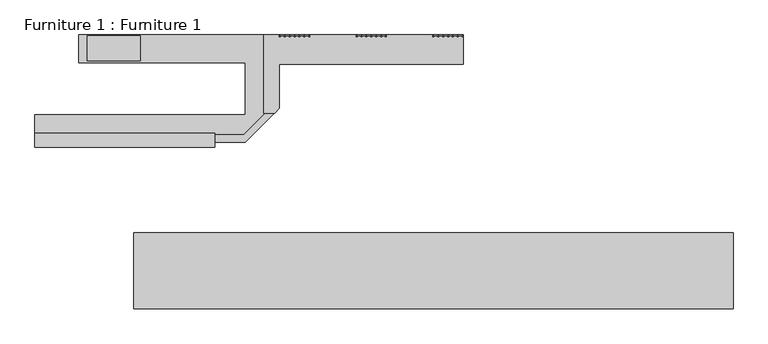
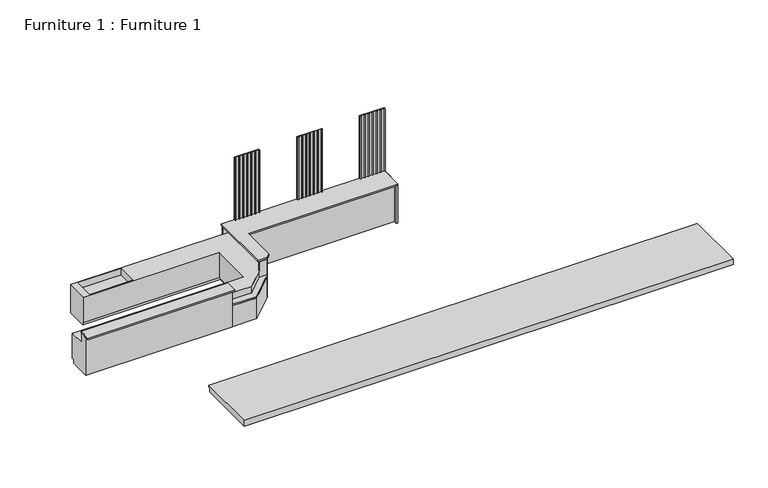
"""IFC4 building model written with IfcOpenShell, lengths in millimetres: furniture geometry, Furniture 1 : Furniture 1."""

import ifcopenshell
import ifcopenshell.guid

model = None  # the IFC model being written
_history = None  # IfcOwnerHistory: only IFC2X3 demands one
_inside = {}  # id of a spatial element -> (the spatial element, [elements in it])
_under = {}  # id of a project, library or spatial element -> (it, [spatial elements below it])
_declared = {}  # id of a project -> (the project, [libraries it declares])
_typed = {}  # id of a type object -> (the type object, [elements of that type])
_made_of = {}  # id of a material, layer set ... -> (it, [elements and type objects made of it])


def new_model(schema):
    """Start an empty IFC model of exactly this schema.

    Asked for "IFC4X3", IfcOpenShell would pick the latest addendum, in which some entities
    have other attributes; the version numbers below select the first issue.
    IFC2X3 requires an IfcOwnerHistory on every rooted entity: one is made here for all.
    """
    global model, _history
    if schema == "IFC4X3":
        model = ifcopenshell.file(schema_version=(4, 3, 0, 0))
    else:
        model = ifcopenshell.file(schema=schema)
    _inside.clear()
    _under.clear()
    _declared.clear()
    _typed.clear()
    _made_of.clear()
    _history = None
    if model.schema == "IFC2X3":
        org = make("IfcOrganization", Name="unknown")
        user = make(
            "IfcPersonAndOrganization",
            ThePerson=make("IfcPerson", FamilyName="unknown"),
            TheOrganization=org,
        )
        app = make(
            "IfcApplication",
            ApplicationDeveloper=org,
            Version="unknown",
            ApplicationFullName="unknown",
            ApplicationIdentifier="unknown",
        )
        _history = make(
            "IfcOwnerHistory",
            OwningUser=user,
            OwningApplication=app,
            ChangeAction="ADDED",
            CreationDate=0,
        )
    return model


def make(cls, **values):
    """One entity of the class cls with the attributes given. An attribute that is None is left unset."""
    return model.create_entity(
        cls, **{name: value for name, value in values.items() if value is not None}
    )


def rooted(cls, **values):
    """An entity with a GlobalId (a new one), such as an element, a storey or a relation."""
    return make(cls, GlobalId=ifcopenshell.guid.new(), OwnerHistory=_history, **values)


def si_unit(unit_type, name, prefix=None):
    """IfcSIUnit, for example si_unit("LENGTHUNIT", "METRE", prefix="MILLI")."""
    return make("IfcSIUnit", UnitType=unit_type, Prefix=prefix, Name=name)


def assignment(units):
    """IfcUnitAssignment: the units of a project."""
    return None if units is None else make("IfcUnitAssignment", Units=units)


def point(xyz):
    """IfcCartesianPoint."""
    return None if xyz is None else make("IfcCartesianPoint", Coordinates=xyz)


def direction(xyz):
    """IfcDirection."""
    return None if xyz is None else make("IfcDirection", DirectionRatios=xyz)


def frame(location, z_axis=None, x_axis=None):
    """IfcAxis2Placement3D, a coordinate frame: its origin and axes. An axis left out is left unset."""
    return make(
        "IfcAxis2Placement3D",
        Location=point(location),
        Axis=direction(z_axis),
        RefDirection=direction(x_axis),
    )


def frame_2d(location, x_axis=None):
    """IfcAxis2Placement2D, a coordinate frame in the plane: its origin and x axis."""
    return make(
        "IfcAxis2Placement2D", Location=point(location), RefDirection=direction(x_axis)
    )


def origin():
    """The frame at (0, 0, 0) with its axes left unset."""
    return frame((0.0, 0.0, 0.0))


def origin_with_axes():
    """The frame at (0, 0, 0) with the z axis (0, 0, 1) and the x axis (1, 0, 0) written out."""
    return frame((0.0, 0.0, 0.0), z_axis=(0.0, 0.0, 1.0), x_axis=(1.0, 0.0, 0.0))


def place(relative_to, where):
    """IfcLocalPlacement: puts the frame where relative to a parent placement (None: the world)."""
    return make(
        "IfcLocalPlacement", PlacementRelTo=relative_to, RelativePlacement=where
    )


def context(
    kind, dimensions, precision=None, world=None, true_north=None, identifier=None
):
    """IfcGeometricRepresentationContext, for example the 3D "Model" context."""
    return make(
        "IfcGeometricRepresentationContext",
        ContextIdentifier=identifier,
        ContextType=kind,
        CoordinateSpaceDimension=dimensions,
        Precision=precision,
        WorldCoordinateSystem=world,
        TrueNorth=true_north,
    )


def project(units=None, contexts=None):
    """IfcProject with its units and contexts."""
    return rooted(
        "IfcProject",
        Name="project",
        RepresentationContexts=contexts,
        UnitsInContext=assignment(units),
    )


def spatial(cls, under=None, at=None, **own):
    """A site, building, storey or space (cls), placed at a placement, below another one or the project."""
    s = rooted(cls, ObjectPlacement=at, **own)
    if under is not None:
        _under.setdefault(under.id(), (under, []))[1].append(s)
    return s


def polyline(points):
    """IfcPolyline through the points."""
    return make("IfcPolyline", Points=[point(p) for p in points])


def circle_curve(where, radius):
    """IfcCircle in the frame where."""
    return make("IfcCircle", Position=where, Radius=radius)


def trimmed(basis, trim1, trim2, sense, master):
    """IfcTrimmedCurve: the piece of a basis curve between two trims."""
    return make(
        "IfcTrimmedCurve",
        BasisCurve=basis,
        Trim1=trim1,
        Trim2=trim2,
        SenseAgreement=sense,
        MasterRepresentation=master,
    )


def segment(curve, same_sense, transition):
    """IfcCompositeCurveSegment."""
    return make(
        "IfcCompositeCurveSegment",
        Transition=transition,
        SameSense=same_sense,
        ParentCurve=curve,
    )


def composite_curve(segments, self_intersect=None):
    """IfcCompositeCurve: segments joined end to end."""
    return make("IfcCompositeCurve", Segments=segments, SelfIntersect=self_intersect)


def outline(outer, holes=None, kind="AREA"):
    """IfcArbitraryClosedProfileDef: a profile drawn as a closed curve; with holes, ...WithVoids."""
    if holes is None:
        return make("IfcArbitraryClosedProfileDef", ProfileType=kind, OuterCurve=outer)
    return make(
        "IfcArbitraryProfileDefWithVoids",
        ProfileType=kind,
        OuterCurve=outer,
        InnerCurves=holes,
    )


def extrude(swept, where, along, depth):
    """IfcExtrudedAreaSolid: the profile swept, set in the frame where, extruded along a direction by depth."""
    return make(
        "IfcExtrudedAreaSolid",
        SweptArea=swept,
        Position=where,
        ExtrudedDirection=direction(along),
        Depth=depth,
    )


def faces_of(points, faces, orient=None, outer=None):
    """IfcFace entities. A face is a list of loops; a loop is a list of indices into points, from 0.

    orient and outer hold one flag for each loop. By default every Orientation is true, the
    first loop of a face is its IfcFaceOuterBound and the others are IfcFaceBound.
    """
    made = []
    for i, loops in enumerate(faces):
        bounds = []
        for j, loop in enumerate(loops):
            is_outer = j == 0 if outer is None else outer[i][j]
            bounds.append(
                make(
                    "IfcFaceOuterBound" if is_outer else "IfcFaceBound",
                    Bound=make("IfcPolyLoop", Polygon=[points[k] for k in loop]),
                    Orientation=True if orient is None else orient[i][j],
                )
            )
        made.append(make("IfcFace", Bounds=bounds))
    return made


def faceted_brep(points, faces, orient=None, outer=None, voids=None):
    """IfcFacetedBrep: a solid bounded by flat faces; with voids (closed shells), ...WithVoids."""
    shared = [point(p) for p in points]
    hull = make("IfcClosedShell", CfsFaces=faces_of(shared, faces, orient, outer))
    if voids is None:
        return make("IfcFacetedBrep", Outer=hull)
    return make(
        "IfcFacetedBrepWithVoids",
        Outer=hull,
        Voids=[
            make(cls, CfsFaces=faces_of(shared, fs, o, b)) for cls, fs, o, b in voids
        ],
    )


def shape(context_of_items, identifier, shape_type, items):
    """IfcShapeRepresentation: the items that make up one representation, for example the "Body"."""
    return make(
        "IfcShapeRepresentation",
        ContextOfItems=context_of_items,
        RepresentationIdentifier=identifier,
        RepresentationType=shape_type,
        Items=items,
    )


def source(mapping_origin, context_of_items, identifier, shape_type, items):
    """IfcRepresentationMap: a shape defined once, which mapped items show again and again."""
    return make(
        "IfcRepresentationMap",
        MappingOrigin=mapping_origin,
        MappedRepresentation=shape(context_of_items, identifier, shape_type, items),
    )


def transform(
    local_origin,
    x_axis=None,
    y_axis=None,
    z_axis=None,
    scale=None,
    scale2=None,
    scale3=None,
    uniform=True,
):
    """IfcCartesianTransformationOperator3D, or its non-uniform kind. x_axis, y_axis, z_axis: its Axis1, 2, 3."""
    if uniform:
        return make(
            "IfcCartesianTransformationOperator3D",
            Axis1=direction(x_axis),
            Axis2=direction(y_axis),
            LocalOrigin=point(local_origin),
            Scale=scale,
            Axis3=direction(z_axis),
        )
    return make(
        "IfcCartesianTransformationOperator3DnonUniform",
        Axis1=direction(x_axis),
        Axis2=direction(y_axis),
        LocalOrigin=point(local_origin),
        Scale=scale,
        Axis3=direction(z_axis),
        Scale2=scale2,
        Scale3=scale3,
    )


def mapped(mapping_source, mapping_target):
    """IfcMappedItem: shows the shape of a source again, moved by a transform."""
    return make(
        "IfcMappedItem", MappingSource=mapping_source, MappingTarget=mapping_target
    )


def made_of(thing, what):
    """Note that an element or type object is made of a material, layer set ...; save() writes the relation."""
    if what is not None:
        _made_of.setdefault(what.id(), (what, []))[1].append(thing)
    return thing


def element(
    cls,
    number,
    at=None,
    inside=None,
    cuts=None,
    type_object=None,
    material=None,
    context=None,
    identifier="Body",
    shape_type=None,
    held_by="IfcProductDefinitionShape",
    body=None,
    shapes=None,
    **own,
):
    """One element of the class cls, such as IfcWall. Its Tag is "e" and its number.

    at: its placement. inside: the storey or other place that contains it. cuts: it is an
    opening in that element (IfcRelVoidsElement). A single representation is given by context,
    identifier, shape_type and body (its items); several are given by shapes. held_by: the class
    of the entity that holds the representations. save() writes the other relations.
    """
    e = rooted(cls, Tag="e%d" % number, ObjectPlacement=at, **own)
    if body is not None:
        shapes = [shape(context, identifier, shape_type, body)]
    if shapes is not None:
        e.Representation = make(held_by, Representations=shapes)
    if inside is not None:
        _inside.setdefault(inside.id(), (inside, []))[1].append(e)
    if cuts is not None:
        rooted(
            "IfcRelVoidsElement", RelatingBuildingElement=cuts, RelatedOpeningElement=e
        )
    if type_object is not None:
        _typed.setdefault(type_object.id(), (type_object, []))[1].append(e)
    return made_of(e, material)


def aggregate(whole, parts):
    """IfcRelAggregates: a whole, such as a stair, and the parts it consists of."""
    return rooted("IfcRelAggregates", RelatingObject=whole, RelatedObjects=parts)


def save(model, path):
    """Write the relations noted so far, then the file.

    IfcRelAggregates (storeys below a building ...), IfcRelContainedInSpatialStructure (elements
    in a storey), IfcRelDefinesByType, IfcRelAssociatesMaterial and IfcRelDeclares: one each for
    every whole, place, type object, material and project.
    """
    for whole, parts in _under.values():
        aggregate(whole, parts)
    for where, things in _inside.values():
        rooted(
            "IfcRelContainedInSpatialStructure",
            RelatedElements=things,
            RelatingStructure=where,
        )
    for kind, things in _typed.values():
        rooted("IfcRelDefinesByType", RelatedObjects=things, RelatingType=kind)
    for what, things in _made_of.values():
        rooted("IfcRelAssociatesMaterial", RelatedObjects=things, RelatingMaterial=what)
    for by, libraries in _declared.values():
        rooted("IfcRelDeclares", RelatingContext=by, RelatedDefinitions=libraries)
    model.write(path)


def plane_surface(at):
    """IfcPlane: the flat surface through the origin of the frame at, square to its z axis."""
    return make("IfcPlane", Position=at)


def cylinder_surface(at, radius):
    """IfcCylindricalSurface: all points at the distance radius from the z axis of the frame at."""
    return make("IfcCylindricalSurface", Position=at, Radius=radius)


def advanced_brep(points, edges, surfaces, faces):
    """IfcAdvancedBrep: a solid bounded by faces that lie on surfaces and meet in shared edges.

    An edge is (start, end): straight between two places in points (the first is 0);
    or (start, end, curve); or (start, end, curve, False) where it runs against its curve.
    A face is (place in surfaces, loops), or (place, loops, False) where it looks against
    its surface's normal. A loop lists edges by number (the first is 1), with a minus sign
    where the edge is run from its end to its start. The first loop is the outer one.
    """
    corners = [point(p) for p in points]
    vertices = [make("IfcVertexPoint", VertexGeometry=c) for c in corners]
    made = []
    for start, end, *more in edges:
        made.append(
            make(
                "IfcEdgeCurve",
                EdgeStart=vertices[start],
                EdgeEnd=vertices[end],
                EdgeGeometry=more[0] if more else make("IfcPolyline", Points=[corners[start], corners[end]]),
                SameSense=more[1] if len(more) > 1 else True,
            )
        )
    hull = []
    for where, loops, *sense in faces:
        bounds = []
        for j, loop in enumerate(loops):
            ring = [make("IfcOrientedEdge", EdgeElement=made[abs(k) - 1], Orientation=k > 0) for k in loop]
            bounds.append(
                make(
                    "IfcFaceOuterBound" if j == 0 else "IfcFaceBound",
                    Bound=make("IfcEdgeLoop", EdgeList=ring),
                    Orientation=True,
                )
            )
        hull.append(make("IfcAdvancedFace", Bounds=bounds, FaceSurface=surfaces[where], SameSense=sense[0] if sense else True))
    return make("IfcAdvancedBrep", Outer=make("IfcClosedShell", CfsFaces=hull))


def furniture_1_furniture_1_585118fb(model_context):
    return source(origin(), model_context, "Body", "SolidModel", [
        faceted_brep([(1890.3581956, 270.6590937, 1000.0), (3729.9697976, 270.6590937, 1000.0), (3719.9697976, 270.6590937, 990.0), (1880.1357877, 270.6590937, 990.0), (61.3840111, 270.6590937, 990.0), (51.3840111, 270.6590937, 1000.0), (1890.3581956, 100.6590937, 1000.0), (3729.9697976, 100.6590937, 1000.0), (3719.9697976, 100.6590937, 990.0), (1880.1357877, 100.6590937, 990.0), (61.3840111, 100.6590937, 990.0), (51.3840111, 100.6590937, 1000.0)], [[[0, 1, 2, 3, 4, 5]], [[1, 0, 6, 7]], [[2, 1, 7, 8]], [[3, 2, 8, 9]], [[4, 3, 9, 10]], [[5, 4, 10, 11]], [[0, 5, 11, 6]], [[6, 11, 10, 9, 8, 7]]]),
        faceted_brep([(3720.6769044, 270.6590937, 989.2928932), (3730.6769044, 270.6590937, 999.2928932), (3730.6769044, 270.6590937, 760.0), (3720.6769044, 270.6590937, 760.0), (50.6769044, 270.6590937, 760.0), (50.6769044, 270.6590937, 999.2928932), (60.6769044, 270.6590937, 989.2928932), (60.6769044, 270.6590937, 760.0), (3720.6769044, 100.6590937, 989.2928932), (3720.6769044, 100.6590937, 760.0), (3730.6769044, 100.6590937, 999.2928932), (50.6769044, 100.6590937, 999.2928932), (60.6769044, 100.6590937, 989.2928932), (60.6769044, 100.6590937, 760.0), (950.6769044, 1729.760891, 760.0), (4350.6769044, 1729.760891, 760.0), (4350.6769044, 670.6590937, 760.0), (50.6769044, 670.6590937, 760.0), (4321.5751071, 270.6590937, 760.0), (4751.5751071, 700.6590937, 760.0), (4750.6769044, 700.6590937, 760.0), (4750.6769044, 710.6590937, 760.0), (4950.6769044, 710.6590937, 760.0), (4950.6769044, 2289.760891, 760.0), (4750.6769044, 2289.760891, 760.0), (4750.6769044, 2299.760891, 760.0), (950.6769044, 2299.760891, 760.0), (1121.8993478, 1769.060891, 760.0), (1121.8993478, 2284.060891, 760.0), (2201.8993478, 2284.060891, 760.0), (2201.8993478, 1769.060891, 760.0), (950.6769044, 2299.760891, 0.0), (4950.6769044, 2299.760891, 0.0), (4950.6769044, 700.6590937, 0.0), (4751.5751071, 700.6590937, 0.0), (4321.5751071, 270.6590937, 0.0), (3730.6769044, 270.6590937, 0.0), (3730.6769044, 100.6590937, 0.0), (50.6769044, 100.6590937, 0.0), (50.6769044, 620.6590937, 0.0), (4400.6769044, 620.6590937, 0.0), (4400.6769044, 1779.760891, 0.0), (950.6769044, 1779.760891, 0.0), (950.6769044, 1729.760891, 100.0), (4350.6769044, 1729.760891, 100.0), (4350.6769044, 670.6590937, 100.0), (50.6769044, 670.6590937, 100.0), (4950.6769044, 700.6590937, 999.2928932), (4750.6769044, 700.6590937, 999.2928932), (4950.6769044, 2299.760891, 999.2928932), (4950.6769044, 2289.760891, 989.2928932), (4950.6769044, 710.6590937, 989.2928932), (4750.6769044, 2299.760891, 999.2928932), (950.6769044, 1779.760891, 100.0), (4750.6769044, 710.6590937, 989.2928932), (4750.6769044, 2289.760891, 989.2928932), (50.6769044, 620.6590937, 100.0), (4400.6769044, 620.6590937, 100.0), (4400.6769044, 1779.760891, 100.0), (1121.8993478, 1769.060891, 584.1), (2201.8993478, 1769.060891, 584.1), (2201.8993478, 2284.060891, 584.1), (1121.8993478, 2284.060891, 584.1)], [[[0, 1, 2, 3]], [[4, 5, 6, 7]], [[8, 0, 3, 9]], [[1, 0, 8, 10]], [[6, 5, 11, 12]], [[7, 6, 12, 13]], [[14, 15, 16, 17, 4, 7, 13, 9, 3, 2, 18, 19, 20, 21, 22, 23, 24, 25, 26], [27, 28, 29, 30]], [[31, 32, 33, 34, 35, 36, 37, 38, 39, 40, 41, 42]], [[15, 14, 43, 44]], [[16, 15, 44, 45]], [[17, 16, 45, 46]], [[18, 2, 36, 35]], [[19, 18, 35, 34]], [[34, 33, 47, 48, 20, 19]], [[33, 32, 49, 50, 23, 22, 51, 47]], [[32, 31, 26, 25, 52, 49]], [[14, 26, 31, 42, 53, 43]], [[48, 54, 21, 20]], [[55, 52, 25, 24]], [[47, 51, 54, 48]], [[51, 22, 21, 54]], [[50, 55, 24, 23]], [[50, 49, 52, 55]], [[56, 57, 40, 39]], [[57, 56, 46, 45, 44, 43, 53, 58]], [[40, 57, 58, 41]], [[58, 53, 42, 41]], [[5, 4, 17, 46, 56, 39, 38, 11]], [[38, 37, 10, 8, 9, 13, 12, 11]], [[37, 36, 2, 1, 10]], [[59, 60, 61, 62]], [[59, 62, 28, 27]], [[62, 61, 29, 28]], [[61, 60, 30, 29]], [[60, 59, 27, 30]]]),
        faceted_brep([(4950.6769044, 2299.0537842, 1000.0), (4950.6769044, 701.3662005, 1000.0), (4950.6769044, 711.3662005, 990.0), (4950.6769044, 2289.0537842, 990.0), (4750.6769044, 2299.0537842, 1000.0), (4750.6769044, 2289.0537842, 990.0), (4750.6769044, 711.3662005, 990.0), (4750.6769044, 701.3662005, 1000.0)], [[[0, 1, 2, 3]], [[4, 5, 6, 7]], [[0, 3, 5, 4]], [[3, 2, 6, 5]], [[2, 1, 7, 6]], [[1, 0, 4, 7]]]),
        extrude(outline(polyline([(4950.6769044, 699.760891), (4351.5751071, 100.6590937), (3720.6769044, 100.6590937), (3720.6769044, 270.6590937), (4321.5751071, 270.6590937), (4750.6769044, 699.760891), (4950.6769044, 699.760891)])), origin_with_axes(), (0.0, 0.0, 1.0), 550.0),
        extrude(outline(polyline([(50.6769044, 100.6590937), (3730.6769044, 100.6590937), (3730.6769044, 90.6590937), (50.6769044, 90.6590937), (50.6769044, 100.6590937)])), origin_with_axes(), (0.0, 0.0, 1.0), 1000.0),
        extrude(outline(polyline([(3720.6769044, 270.6590937), (4321.5751071, 270.6590937), (4750.6769044, 699.760891), (4950.6769044, 699.760891), (4351.5751071, 100.6590937), (3720.6769044, 100.6590937), (3720.6769044, 270.6590937)])), frame((0.0, 0.0, 550.0), z_axis=(0.0, 0.0, 1.0), x_axis=(1.0, 0.0, 0.0)), (0.0, 0.0, 1.0), 40.0),
        extrude(outline(composite_curve([segment(polyline([(4960.6769044, 1789.760891), (4960.6769044, 709.760891), (4953.6058365, 702.6898231)]), True, "CONTINUOUS"), segment(trimmed(circle_curve(frame_2d((4946.5347687, 709.760891)), 10.0), [point((4953.6058365, 702.6898231))], [point((4950.6769044, 700.6590937))], False, "CARTESIAN"), True, "CONTINUOUS"), segment(polyline([(4950.6769044, 700.6590937), (4950.6769044, 1984.8332946), (4950.6769044, 2299.760891), (4960.6769044, 2299.760891), (4960.6769044, 1799.760891), (8769.9697976, 1799.760891), (8769.9697976, 1789.760891), (4960.6769044, 1789.760891)]), True, "CONTINUOUS")], self_intersect=False)), origin_with_axes(), (0.0, 0.0, 1.0), 1000.0),
        advanced_brep(
        [(4730.6769044, 2299.760891, 1040.0), (4730.6769044, 699.760891, 1040.0), (4946.5347687, 699.760891, 1040.0), (4953.6058365, 702.6898231, 1040.0), (5047.7479722, 796.8319588, 1040.0), (5050.6769044, 803.9030266, 1040.0), (5050.6769044, 1699.760891, 1040.0), (8809.9697976, 1699.760891, 1040.0), (8809.9697976, 2299.760891, 1040.0), (8769.9697976, 2299.760891, 1000.0), (8769.9697976, 1699.760891, 1000.0), (5050.6769044, 1699.760891, 1000.0), (5050.6769044, 803.9030266, 1000.0), (5047.7479722, 796.8319588, 1000.0), (4953.6058365, 702.6898231, 1000.0), (4946.5347687, 699.760891, 1000.0), (4730.6769044, 699.760891, 1000.0), (4730.6769044, 2299.760891, 1000.0)],
        [
            (0, 1),
            (1, 2),
            (2, 3, circle_curve(frame((4946.5347687, 709.760891, 1040.0), z_axis=(0.0, 0.0, 1.0), x_axis=(1.0, 0.0, 0.0)), 10.0)),
            (3, 4),
            (4, 5, circle_curve(frame((5040.6769044, 803.9030266, 1040.0), z_axis=(0.0, 0.0, 1.0), x_axis=(1.0, 0.0, 0.0)), 10.0)),
            (5, 6),
            (6, 7),
            (7, 8),
            (8, 0),
            (9, 10),
            (10, 11),
            (11, 12),
            (12, 13, circle_curve(frame((5040.6769044, 803.9030266, 1000.0), z_axis=(0.0, 0.0, -1.0), x_axis=(1.0, 0.0, 0.0)), 10.0)),
            (13, 14),
            (14, 15, circle_curve(frame((4946.5347687, 709.760891, 1000.0), z_axis=(0.0, 0.0, -1.0), x_axis=(1.0, 0.0, 0.0)), 10.0)),
            (15, 16),
            (16, 17),
            (17, 9),
            (0, 17),
            (16, 1),
            (15, 2),
            (14, 3),
            (13, 4),
            (12, 5),
            (11, 6),
            (8, 9),
            (10, 7),
        ],
        [
            plane_surface(frame((4730.6769044, 2299.760891, 1040.0), z_axis=(0.0, 0.0, 1.0), x_axis=(0.0, -1.0, 0.0))),
            plane_surface(frame((4730.6769044, 2299.760891, 1000.0), z_axis=(0.0, 0.0, -1.0), x_axis=(0.0, 1.0, 0.0))),
            plane_surface(frame((4730.6769044, 2299.760891, 1040.0), z_axis=(-1.0, 0.0, 0.0), x_axis=(0.0, 0.0, -1.0))),
            plane_surface(frame((4730.6769044, 699.760891, 1040.0), z_axis=(0.0, -1.0, 0.0), x_axis=(0.0, 0.0, -1.0))),
            cylinder_surface(frame((4946.5347687, 709.760891, 1000.0), z_axis=(0.0, 0.0, 1.0), x_axis=(1.0, 0.0, 0.0)), 10.0),
            plane_surface(frame((4953.6058365, 702.6898231, 1040.0), z_axis=(0.707106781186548, -0.707106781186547, 0.0), x_axis=(0.0, 0.0, -1.0))),
            cylinder_surface(frame((5040.6769044, 803.9030266, 1000.0), z_axis=(0.0, 0.0, 1.0), x_axis=(1.0, 0.0, 0.0)), 10.0),
            plane_surface(frame((5050.6769044, 803.9030266, 1040.0), z_axis=(1.0, 0.0, 0.0), x_axis=(0.0, 0.0, -1.0))),
            plane_surface(frame((5050.6769044, 2299.760891, 1040.0), z_axis=(0.0, 1.0, 0.0), x_axis=(0.0, 0.0, -1.0))),
            plane_surface(frame((5050.6769044, 1699.760891, 1040.0), z_axis=(0.0, -1.0, 0.0), x_axis=(0.0, 0.0, -1.0))),
            plane_surface(frame((8769.9697976, 1699.760891, 1000.0), z_axis=(0.7071067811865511, 0.0, -0.7071067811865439), x_axis=(0.0, 1.0, 0.0))),
        ],
        [
            (0, [[1, 2, 3, 4, 5, 6, 7, 8, 9]]),
            (1, [[10, 11, 12, 13, 14, 15, 16, 17, 18]]),
            (2, [[-1, 19, -17, 20]]),
            (3, [[-2, -20, -16, 21]]),
            (4, [[-3, -21, -15, 22]]),
            (5, [[-4, -22, -14, 23]]),
            (6, [[-5, -23, -13, 24]]),
            (7, [[-24, -12, 25, -6]]),
            (8, [[-9, 26, -18, -19]]),
            (9, [[-11, 27, -7, -25]]),
            (10, [[-27, -10, -26, -8]]),
        ],
    ),
        faceted_brep([(50.6769044, 0.6590937, 1040.0), (3730.6769044, 0.6590937, 1040.0), (3730.6769044, 290.6590937, 1040.0), (50.6769044, 290.6590937, 1040.0), (50.6769044, 0.6590937, 1000.0), (50.6769044, 290.6590937, 1000.0), (3730.6769044, 290.6590937, 1000.0), (3730.6769044, 0.6590937, 1000.0)], [[[0, 1, 2, 3]], [[4, 5, 6, 7]], [[1, 0, 4, 7]], [[2, 1, 7, 6]], [[3, 2, 6, 5]], [[0, 3, 5, 4]]]),
        faceted_brep([(8770.6769044, 2299.760891, 0.0), (8770.6769044, 2299.760891, 999.2928932), (8810.6769044, 2299.760891, 1039.2928932), (8810.6769044, 2299.760891, 0.0), (8770.6769044, 1699.760891, 0.0), (8810.6769044, 1699.760891, 0.0), (8810.6769044, 1699.760891, 1039.2928932), (8770.6769044, 1699.760891, 999.2928932)], [[[0, 1, 2, 3]], [[4, 5, 6, 7]], [[5, 4, 0, 3]], [[6, 5, 3, 2]], [[7, 6, 2, 1]], [[4, 7, 1, 0]]]),
        extrude(outline(composite_curve([segment(polyline([(5650.6769044, 2279.760891), (5670.6769044, 2279.760891), (5670.6769044, 2260.760891)]), True, "CONTINUOUS"), segment(trimmed(circle_curve(frame_2d((5669.6769044, 2260.760891)), 1.0), [point((5670.6769044, 2260.760891))], [point((5669.6769044, 2259.760891))], False, "CARTESIAN"), True, "CONTINUOUS"), segment(polyline([(5669.6769044, 2259.760891), (5651.6769044, 2259.760891)]), True, "CONTINUOUS"), segment(trimmed(circle_curve(frame_2d((5651.6769044, 2260.760891)), 1.0), [point((5651.6769044, 2259.760891))], [point((5650.6769044, 2260.760891))], False, "CARTESIAN"), True, "CONTINUOUS"), segment(polyline([(5650.6769044, 2260.760891), (5650.6769044, 2279.760891)]), True, "CONTINUOUS")], self_intersect=False)), frame((0.0, 0.0, 1040.0), z_axis=(0.0, 0.0, 1.0), x_axis=(1.0, 0.0, 0.0)), (0.0, 0.0, 1.0), 1660.0),
        extrude(outline(composite_curve([segment(polyline([(5550.6769044, 2279.760891), (5570.6769044, 2279.760891), (5570.6769044, 2260.760891)]), True, "CONTINUOUS"), segment(trimmed(circle_curve(frame_2d((5569.6769044, 2260.760891)), 1.0), [point((5570.6769044, 2260.760891))], [point((5569.6769044, 2259.760891))], False, "CARTESIAN"), True, "CONTINUOUS"), segment(polyline([(5569.6769044, 2259.760891), (5551.6769044, 2259.760891)]), True, "CONTINUOUS"), segment(trimmed(circle_curve(frame_2d((5551.6769044, 2260.760891)), 1.0), [point((5551.6769044, 2259.760891))], [point((5550.6769044, 2260.760891))], False, "CARTESIAN"), True, "CONTINUOUS"), segment(polyline([(5550.6769044, 2260.760891), (5550.6769044, 2279.760891)]), True, "CONTINUOUS")], self_intersect=False)), frame((0.0, 0.0, 1040.0), z_axis=(0.0, 0.0, 1.0), x_axis=(1.0, 0.0, 0.0)), (0.0, 0.0, 1.0), 1660.0),
        extrude(outline(composite_curve([segment(polyline([(5450.6769044, 2279.760891), (5470.6769044, 2279.760891), (5470.6769044, 2260.760891)]), True, "CONTINUOUS"), segment(trimmed(circle_curve(frame_2d((5469.6769044, 2260.760891)), 1.0), [point((5470.6769044, 2260.760891))], [point((5469.6769044, 2259.760891))], False, "CARTESIAN"), True, "CONTINUOUS"), segment(polyline([(5469.6769044, 2259.760891), (5451.6769044, 2259.760891)]), True, "CONTINUOUS"), segment(trimmed(circle_curve(frame_2d((5451.6769044, 2260.760891)), 1.0), [point((5451.6769044, 2259.760891))], [point((5450.6769044, 2260.760891))], False, "CARTESIAN"), True, "CONTINUOUS"), segment(polyline([(5450.6769044, 2260.760891), (5450.6769044, 2279.760891)]), True, "CONTINUOUS")], self_intersect=False)), frame((0.0, 0.0, 1040.0), z_axis=(0.0, 0.0, 1.0), x_axis=(1.0, 0.0, 0.0)), (0.0, 0.0, 1.0), 1660.0),
        extrude(outline(composite_curve([segment(polyline([(5350.6769044, 2279.760891), (5370.6769044, 2279.760891), (5370.6769044, 2260.760891)]), True, "CONTINUOUS"), segment(trimmed(circle_curve(frame_2d((5369.6769044, 2260.760891)), 1.0), [point((5370.6769044, 2260.760891))], [point((5369.6769044, 2259.760891))], False, "CARTESIAN"), True, "CONTINUOUS"), segment(polyline([(5369.6769044, 2259.760891), (5351.6769044, 2259.760891)]), True, "CONTINUOUS"), segment(trimmed(circle_curve(frame_2d((5351.6769044, 2260.760891)), 1.0), [point((5351.6769044, 2259.760891))], [point((5350.6769044, 2260.760891))], False, "CARTESIAN"), True, "CONTINUOUS"), segment(polyline([(5350.6769044, 2260.760891), (5350.6769044, 2279.760891)]), True, "CONTINUOUS")], self_intersect=False)), frame((0.0, 0.0, 1040.0), z_axis=(0.0, 0.0, 1.0), x_axis=(1.0, 0.0, 0.0)), (0.0, 0.0, 1.0), 1660.0),
        extrude(outline(composite_curve([segment(polyline([(5250.6769044, 2279.760891), (5270.6769044, 2279.760891), (5270.6769044, 2260.760891)]), True, "CONTINUOUS"), segment(trimmed(circle_curve(frame_2d((5269.6769044, 2260.760891)), 1.0), [point((5270.6769044, 2260.760891))], [point((5269.6769044, 2259.760891))], False, "CARTESIAN"), True, "CONTINUOUS"), segment(polyline([(5269.6769044, 2259.760891), (5251.6769044, 2259.760891)]), True, "CONTINUOUS"), segment(trimmed(circle_curve(frame_2d((5251.6769044, 2260.760891)), 1.0), [point((5251.6769044, 2259.760891))], [point((5250.6769044, 2260.760891))], False, "CARTESIAN"), True, "CONTINUOUS"), segment(polyline([(5250.6769044, 2260.760891), (5250.6769044, 2279.760891)]), True, "CONTINUOUS")], self_intersect=False)), frame((0.0, 0.0, 1040.0), z_axis=(0.0, 0.0, 1.0), x_axis=(1.0, 0.0, 0.0)), (0.0, 0.0, 1.0), 1660.0),
        extrude(outline(composite_curve([segment(polyline([(5150.6769044, 2279.760891), (5170.6769044, 2279.760891), (5170.6769044, 2260.760891)]), True, "CONTINUOUS"), segment(trimmed(circle_curve(frame_2d((5169.6769044, 2260.760891)), 1.0), [point((5170.6769044, 2260.760891))], [point((5169.6769044, 2259.760891))], False, "CARTESIAN"), True, "CONTINUOUS"), segment(polyline([(5169.6769044, 2259.760891), (5151.6769044, 2259.760891)]), True, "CONTINUOUS"), segment(trimmed(circle_curve(frame_2d((5151.6769044, 2260.760891)), 1.0), [point((5151.6769044, 2259.760891))], [point((5150.6769044, 2260.760891))], False, "CARTESIAN"), True, "CONTINUOUS"), segment(polyline([(5150.6769044, 2260.760891), (5150.6769044, 2279.760891)]), True, "CONTINUOUS")], self_intersect=False)), frame((0.0, 0.0, 1040.0), z_axis=(0.0, 0.0, 1.0), x_axis=(1.0, 0.0, 0.0)), (0.0, 0.0, 1.0), 1660.0),
        extrude(outline(composite_curve([segment(polyline([(5050.6769044, 2279.760891), (5070.6769044, 2279.760891), (5070.6769044, 2260.760891)]), True, "CONTINUOUS"), segment(trimmed(circle_curve(frame_2d((5069.6769044, 2260.760891)), 1.0), [point((5070.6769044, 2260.760891))], [point((5069.6769044, 2259.760891))], False, "CARTESIAN"), True, "CONTINUOUS"), segment(polyline([(5069.6769044, 2259.760891), (5051.6769044, 2259.760891)]), True, "CONTINUOUS"), segment(trimmed(circle_curve(frame_2d((5051.6769044, 2260.760891)), 1.0), [point((5051.6769044, 2259.760891))], [point((5050.6769044, 2260.760891))], False, "CARTESIAN"), True, "CONTINUOUS"), segment(polyline([(5050.6769044, 2260.760891), (5050.6769044, 2279.760891)]), True, "CONTINUOUS")], self_intersect=False)), frame((0.0, 0.0, 1040.0), z_axis=(0.0, 0.0, 1.0), x_axis=(1.0, 0.0, 0.0)), (0.0, 0.0, 1.0), 1660.0),
        extrude(outline(polyline([(5670.6769044, 2279.760891), (5050.6769044, 2279.760891), (5050.6769044, 2299.760891), (5670.6769044, 2299.760891), (5670.6769044, 2279.760891)])), frame((0.0, 0.0, 1040.0), z_axis=(0.0, 0.0, 1.0), x_axis=(1.0, 0.0, 0.0)), (0.0, 0.0, 1.0), 1660.0),
        extrude(outline(composite_curve([segment(polyline([(7220.6769044, 2279.760891), (7240.6769044, 2279.760891), (7240.6769044, 2260.760891)]), True, "CONTINUOUS"), segment(trimmed(circle_curve(frame_2d((7239.6769044, 2260.760891)), 1.0), [point((7240.6769044, 2260.760891))], [point((7239.6769044, 2259.760891))], False, "CARTESIAN"), True, "CONTINUOUS"), segment(polyline([(7239.6769044, 2259.760891), (7221.6769044, 2259.760891)]), True, "CONTINUOUS"), segment(trimmed(circle_curve(frame_2d((7221.6769044, 2260.760891)), 1.0), [point((7221.6769044, 2259.760891))], [point((7220.6769044, 2260.760891))], False, "CARTESIAN"), True, "CONTINUOUS"), segment(polyline([(7220.6769044, 2260.760891), (7220.6769044, 2279.760891)]), True, "CONTINUOUS")], self_intersect=False)), frame((0.0, 0.0, 1040.0), z_axis=(0.0, 0.0, 1.0), x_axis=(1.0, 0.0, 0.0)), (0.0, 0.0, 1.0), 1660.0),
        extrude(outline(composite_curve([segment(polyline([(7120.6769044, 2279.760891), (7140.6769044, 2279.760891), (7140.6769044, 2260.760891)]), True, "CONTINUOUS"), segment(trimmed(circle_curve(frame_2d((7139.6769044, 2260.760891)), 1.0), [point((7140.6769044, 2260.760891))], [point((7139.6769044, 2259.760891))], False, "CARTESIAN"), True, "CONTINUOUS"), segment(polyline([(7139.6769044, 2259.760891), (7121.6769044, 2259.760891)]), True, "CONTINUOUS"), segment(trimmed(circle_curve(frame_2d((7121.6769044, 2260.760891)), 1.0), [point((7121.6769044, 2259.760891))], [point((7120.6769044, 2260.760891))], False, "CARTESIAN"), True, "CONTINUOUS"), segment(polyline([(7120.6769044, 2260.760891), (7120.6769044, 2279.760891)]), True, "CONTINUOUS")], self_intersect=False)), frame((0.0, 0.0, 1040.0), z_axis=(0.0, 0.0, 1.0), x_axis=(1.0, 0.0, 0.0)), (0.0, 0.0, 1.0), 1660.0),
        extrude(outline(composite_curve([segment(polyline([(7020.6769044, 2279.760891), (7040.6769044, 2279.760891), (7040.6769044, 2260.760891)]), True, "CONTINUOUS"), segment(trimmed(circle_curve(frame_2d((7039.6769044, 2260.760891)), 1.0), [point((7040.6769044, 2260.760891))], [point((7039.6769044, 2259.760891))], False, "CARTESIAN"), True, "CONTINUOUS"), segment(polyline([(7039.6769044, 2259.760891), (7021.6769044, 2259.760891)]), True, "CONTINUOUS"), segment(trimmed(circle_curve(frame_2d((7021.6769044, 2260.760891)), 1.0), [point((7021.6769044, 2259.760891))], [point((7020.6769044, 2260.760891))], False, "CARTESIAN"), True, "CONTINUOUS"), segment(polyline([(7020.6769044, 2260.760891), (7020.6769044, 2279.760891)]), True, "CONTINUOUS")], self_intersect=False)), frame((0.0, 0.0, 1040.0), z_axis=(0.0, 0.0, 1.0), x_axis=(1.0, 0.0, 0.0)), (0.0, 0.0, 1.0), 1660.0),
        extrude(outline(composite_curve([segment(polyline([(6920.6769044, 2279.760891), (6940.6769044, 2279.760891), (6940.6769044, 2260.760891)]), True, "CONTINUOUS"), segment(trimmed(circle_curve(frame_2d((6939.6769044, 2260.760891)), 1.0), [point((6940.6769044, 2260.760891))], [point((6939.6769044, 2259.760891))], False, "CARTESIAN"), True, "CONTINUOUS"), segment(polyline([(6939.6769044, 2259.760891), (6921.6769044, 2259.760891)]), True, "CONTINUOUS"), segment(trimmed(circle_curve(frame_2d((6921.6769044, 2260.760891)), 1.0), [point((6921.6769044, 2259.760891))], [point((6920.6769044, 2260.760891))], False, "CARTESIAN"), True, "CONTINUOUS"), segment(polyline([(6920.6769044, 2260.760891), (6920.6769044, 2279.760891)]), True, "CONTINUOUS")], self_intersect=False)), frame((0.0, 0.0, 1040.0), z_axis=(0.0, 0.0, 1.0), x_axis=(1.0, 0.0, 0.0)), (0.0, 0.0, 1.0), 1660.0),
        extrude(outline(composite_curve([segment(polyline([(6820.6769044, 2279.760891), (6840.6769044, 2279.760891), (6840.6769044, 2260.760891)]), True, "CONTINUOUS"), segment(trimmed(circle_curve(frame_2d((6839.6769044, 2260.760891)), 1.0), [point((6840.6769044, 2260.760891))], [point((6839.6769044, 2259.760891))], False, "CARTESIAN"), True, "CONTINUOUS"), segment(polyline([(6839.6769044, 2259.760891), (6821.6769044, 2259.760891)]), True, "CONTINUOUS"), segment(trimmed(circle_curve(frame_2d((6821.6769044, 2260.760891)), 1.0), [point((6821.6769044, 2259.760891))], [point((6820.6769044, 2260.760891))], False, "CARTESIAN"), True, "CONTINUOUS"), segment(polyline([(6820.6769044, 2260.760891), (6820.6769044, 2279.760891)]), True, "CONTINUOUS")], self_intersect=False)), frame((0.0, 0.0, 1040.0), z_axis=(0.0, 0.0, 1.0), x_axis=(1.0, 0.0, 0.0)), (0.0, 0.0, 1.0), 1660.0),
        extrude(outline(composite_curve([segment(polyline([(6720.6769044, 2279.760891), (6740.6769044, 2279.760891), (6740.6769044, 2260.760891)]), True, "CONTINUOUS"), segment(trimmed(circle_curve(frame_2d((6739.6769044, 2260.760891)), 1.0), [point((6740.6769044, 2260.760891))], [point((6739.6769044, 2259.760891))], False, "CARTESIAN"), True, "CONTINUOUS"), segment(polyline([(6739.6769044, 2259.760891), (6721.6769044, 2259.760891)]), True, "CONTINUOUS"), segment(trimmed(circle_curve(frame_2d((6721.6769044, 2260.760891)), 1.0), [point((6721.6769044, 2259.760891))], [point((6720.6769044, 2260.760891))], False, "CARTESIAN"), True, "CONTINUOUS"), segment(polyline([(6720.6769044, 2260.760891), (6720.6769044, 2279.760891)]), True, "CONTINUOUS")], self_intersect=False)), frame((0.0, 0.0, 1040.0), z_axis=(0.0, 0.0, 1.0), x_axis=(1.0, 0.0, 0.0)), (0.0, 0.0, 1.0), 1660.0),
        extrude(outline(composite_curve([segment(polyline([(6620.6769044, 2279.760891), (6640.6769044, 2279.760891), (6640.6769044, 2260.760891)]), True, "CONTINUOUS"), segment(trimmed(circle_curve(frame_2d((6639.6769044, 2260.760891)), 1.0), [point((6640.6769044, 2260.760891))], [point((6639.6769044, 2259.760891))], False, "CARTESIAN"), True, "CONTINUOUS"), segment(polyline([(6639.6769044, 2259.760891), (6621.6769044, 2259.760891)]), True, "CONTINUOUS"), segment(trimmed(circle_curve(frame_2d((6621.6769044, 2260.760891)), 1.0), [point((6621.6769044, 2259.760891))], [point((6620.6769044, 2260.760891))], False, "CARTESIAN"), True, "CONTINUOUS"), segment(polyline([(6620.6769044, 2260.760891), (6620.6769044, 2279.760891)]), True, "CONTINUOUS")], self_intersect=False)), frame((0.0, 0.0, 1040.0), z_axis=(0.0, 0.0, 1.0), x_axis=(1.0, 0.0, 0.0)), (0.0, 0.0, 1.0), 1660.0),
        extrude(outline(polyline([(7240.6769044, 2279.760891), (6620.6769044, 2279.760891), (6620.6769044, 2299.760891), (7240.6769044, 2299.760891), (7240.6769044, 2279.760891)])), frame((0.0, 0.0, 1040.0), z_axis=(0.0, 0.0, 1.0), x_axis=(1.0, 0.0, 0.0)), (0.0, 0.0, 1.0), 1660.0),
        extrude(outline(composite_curve([segment(polyline([(8790.6769044, 2279.760891), (8810.6769044, 2279.760891), (8810.6769044, 2260.760891)]), True, "CONTINUOUS"), segment(trimmed(circle_curve(frame_2d((8809.6769044, 2260.760891)), 1.0), [point((8810.6769044, 2260.760891))], [point((8809.6769044, 2259.760891))], False, "CARTESIAN"), True, "CONTINUOUS"), segment(polyline([(8809.6769044, 2259.760891), (8791.6769044, 2259.760891)]), True, "CONTINUOUS"), segment(trimmed(circle_curve(frame_2d((8791.6769044, 2260.760891)), 1.0), [point((8791.6769044, 2259.760891))], [point((8790.6769044, 2260.760891))], False, "CARTESIAN"), True, "CONTINUOUS"), segment(polyline([(8790.6769044, 2260.760891), (8790.6769044, 2279.760891)]), True, "CONTINUOUS")], self_intersect=False)), frame((0.0, 0.0, 1040.0), z_axis=(0.0, 0.0, 1.0), x_axis=(1.0, 0.0, 0.0)), (0.0, 0.0, 1.0), 1660.0),
        extrude(outline(composite_curve([segment(polyline([(8690.6769044, 2279.760891), (8710.6769044, 2279.760891), (8710.6769044, 2260.760891)]), True, "CONTINUOUS"), segment(trimmed(circle_curve(frame_2d((8709.6769044, 2260.760891)), 1.0), [point((8710.6769044, 2260.760891))], [point((8709.6769044, 2259.760891))], False, "CARTESIAN"), True, "CONTINUOUS"), segment(polyline([(8709.6769044, 2259.760891), (8691.6769044, 2259.760891)]), True, "CONTINUOUS"), segment(trimmed(circle_curve(frame_2d((8691.6769044, 2260.760891)), 1.0), [point((8691.6769044, 2259.760891))], [point((8690.6769044, 2260.760891))], False, "CARTESIAN"), True, "CONTINUOUS"), segment(polyline([(8690.6769044, 2260.760891), (8690.6769044, 2279.760891)]), True, "CONTINUOUS")], self_intersect=False)), frame((0.0, 0.0, 1040.0), z_axis=(0.0, 0.0, 1.0), x_axis=(1.0, 0.0, 0.0)), (0.0, 0.0, 1.0), 1660.0),
        extrude(outline(composite_curve([segment(polyline([(8590.6769044, 2279.760891), (8610.6769044, 2279.760891), (8610.6769044, 2260.760891)]), True, "CONTINUOUS"), segment(trimmed(circle_curve(frame_2d((8609.6769044, 2260.760891)), 1.0), [point((8610.6769044, 2260.760891))], [point((8609.6769044, 2259.760891))], False, "CARTESIAN"), True, "CONTINUOUS"), segment(polyline([(8609.6769044, 2259.760891), (8591.6769044, 2259.760891)]), True, "CONTINUOUS"), segment(trimmed(circle_curve(frame_2d((8591.6769044, 2260.760891)), 1.0), [point((8591.6769044, 2259.760891))], [point((8590.6769044, 2260.760891))], False, "CARTESIAN"), True, "CONTINUOUS"), segment(polyline([(8590.6769044, 2260.760891), (8590.6769044, 2279.760891)]), True, "CONTINUOUS")], self_intersect=False)), frame((0.0, 0.0, 1040.0), z_axis=(0.0, 0.0, 1.0), x_axis=(1.0, 0.0, 0.0)), (0.0, 0.0, 1.0), 1660.0),
        extrude(outline(composite_curve([segment(polyline([(8490.6769044, 2279.760891), (8510.6769044, 2279.760891), (8510.6769044, 2260.760891)]), True, "CONTINUOUS"), segment(trimmed(circle_curve(frame_2d((8509.6769044, 2260.760891)), 1.0), [point((8510.6769044, 2260.760891))], [point((8509.6769044, 2259.760891))], False, "CARTESIAN"), True, "CONTINUOUS"), segment(polyline([(8509.6769044, 2259.760891), (8491.6769044, 2259.760891)]), True, "CONTINUOUS"), segment(trimmed(circle_curve(frame_2d((8491.6769044, 2260.760891)), 1.0), [point((8491.6769044, 2259.760891))], [point((8490.6769044, 2260.760891))], False, "CARTESIAN"), True, "CONTINUOUS"), segment(polyline([(8490.6769044, 2260.760891), (8490.6769044, 2279.760891)]), True, "CONTINUOUS")], self_intersect=False)), frame((0.0, 0.0, 1040.0), z_axis=(0.0, 0.0, 1.0), x_axis=(1.0, 0.0, 0.0)), (0.0, 0.0, 1.0), 1660.0),
        extrude(outline(composite_curve([segment(polyline([(8390.6769044, 2279.760891), (8410.6769044, 2279.760891), (8410.6769044, 2260.760891)]), True, "CONTINUOUS"), segment(trimmed(circle_curve(frame_2d((8409.6769044, 2260.760891)), 1.0), [point((8410.6769044, 2260.760891))], [point((8409.6769044, 2259.760891))], False, "CARTESIAN"), True, "CONTINUOUS"), segment(polyline([(8409.6769044, 2259.760891), (8391.6769044, 2259.760891)]), True, "CONTINUOUS"), segment(trimmed(circle_curve(frame_2d((8391.6769044, 2260.760891)), 1.0), [point((8391.6769044, 2259.760891))], [point((8390.6769044, 2260.760891))], False, "CARTESIAN"), True, "CONTINUOUS"), segment(polyline([(8390.6769044, 2260.760891), (8390.6769044, 2279.760891)]), True, "CONTINUOUS")], self_intersect=False)), frame((0.0, 0.0, 1040.0), z_axis=(0.0, 0.0, 1.0), x_axis=(1.0, 0.0, 0.0)), (0.0, 0.0, 1.0), 1660.0),
        extrude(outline(composite_curve([segment(polyline([(8290.6769044, 2279.760891), (8310.6769044, 2279.760891), (8310.6769044, 2260.760891)]), True, "CONTINUOUS"), segment(trimmed(circle_curve(frame_2d((8309.6769044, 2260.760891)), 1.0), [point((8310.6769044, 2260.760891))], [point((8309.6769044, 2259.760891))], False, "CARTESIAN"), True, "CONTINUOUS"), segment(polyline([(8309.6769044, 2259.760891), (8291.6769044, 2259.760891)]), True, "CONTINUOUS"), segment(trimmed(circle_curve(frame_2d((8291.6769044, 2260.760891)), 1.0), [point((8291.6769044, 2259.760891))], [point((8290.6769044, 2260.760891))], False, "CARTESIAN"), True, "CONTINUOUS"), segment(polyline([(8290.6769044, 2260.760891), (8290.6769044, 2279.760891)]), True, "CONTINUOUS")], self_intersect=False)), frame((0.0, 0.0, 1040.0), z_axis=(0.0, 0.0, 1.0), x_axis=(1.0, 0.0, 0.0)), (0.0, 0.0, 1.0), 1660.0),
        extrude(outline(composite_curve([segment(polyline([(8190.6769044, 2279.760891), (8210.6769044, 2279.760891), (8210.6769044, 2260.760891)]), True, "CONTINUOUS"), segment(trimmed(circle_curve(frame_2d((8209.6769044, 2260.760891)), 1.0), [point((8210.6769044, 2260.760891))], [point((8209.6769044, 2259.760891))], False, "CARTESIAN"), True, "CONTINUOUS"), segment(polyline([(8209.6769044, 2259.760891), (8191.6769044, 2259.760891)]), True, "CONTINUOUS"), segment(trimmed(circle_curve(frame_2d((8191.6769044, 2260.760891)), 1.0), [point((8191.6769044, 2259.760891))], [point((8190.6769044, 2260.760891))], False, "CARTESIAN"), True, "CONTINUOUS"), segment(polyline([(8190.6769044, 2260.760891), (8190.6769044, 2279.760891)]), True, "CONTINUOUS")], self_intersect=False)), frame((0.0, 0.0, 1040.0), z_axis=(0.0, 0.0, 1.0), x_axis=(1.0, 0.0, 0.0)), (0.0, 0.0, 1.0), 1660.0),
        extrude(outline(polyline([(8810.6769044, 2279.760891), (8190.6769044, 2279.760891), (8190.6769044, 2299.760891), (8810.6769044, 2299.760891), (8810.6769044, 2279.760891)])), frame((0.0, 0.0, 1040.0), z_axis=(0.0, 0.0, 1.0), x_axis=(1.0, 0.0, 0.0)), (0.0, 0.0, 1.0), 1660.0),
        extrude(outline(polyline([(2120.6769044, -1790.239109), (2120.6769044, -1760.239109), (14293.8701435, -1760.239109), (14293.8701435, -1790.239109), (2120.6769044, -1790.239109)])), frame((0.0, 0.0, 110.0), z_axis=(0.0, 0.0, 1.0), x_axis=(1.0, 0.0, 0.0)), (0.0, 0.0, 1.0), 10.0),
        faceted_brep([(2070.6769044, -3300.239109, 150.0), (14330.6769044, -3300.239109, 150.0), (14330.6769044, -1750.239109, 150.0), (2070.6769044, -1750.239109, 150.0), (14330.6769044, -3300.239109, 0.0), (2070.6769044, -3300.239109, 0.0), (2070.6769044, -1800.239109, 0.0), (14330.6769044, -1800.239109, 0.0), (14330.6769044, -1800.239109, 100.0), (14330.6769044, -1750.239109, 100.0), (2070.6769044, -1750.239109, 100.0), (2070.6769044, -1800.239109, 100.0), (14293.8701435, -1790.239109, 100.0), (14293.8701435, -1760.239109, 100.0), (2120.6769044, -1760.239109, 100.0), (2120.6769044, -1790.239109, 100.0), (14293.8701435, -1790.239109, 120.0), (14293.8701435, -1760.239109, 120.0), (2120.6769044, -1760.239109, 120.0), (2120.6769044, -1790.239109, 120.0)], [[[0, 1, 2, 3]], [[4, 5, 6, 7]], [[1, 0, 5, 4]], [[2, 1, 4, 7, 8, 9]], [[3, 2, 9, 10]], [[0, 3, 10, 11, 6, 5]], [[8, 11, 10, 9], [12, 13, 14, 15]], [[11, 8, 7, 6]], [[12, 16, 17, 13]], [[14, 18, 19, 15]], [[13, 17, 18, 14]], [[17, 16, 19, 18]], [[16, 12, 15, 19]]]),
    ])


if __name__ == "__main__":
    model = new_model("IFC4")
    model_context = context("Model", 3, world=origin())
    ifc_project = project(units=[si_unit("LENGTHUNIT", "METRE", prefix="MILLI")], contexts=[model_context])
    site = spatial("IfcSite", under=ifc_project)
    building = spatial("IfcBuilding", under=site)
    placement = place(None, origin())
    furniture_1_furniture_1_shape = furniture_1_furniture_1_585118fb(model_context)
    element("IfcFurniture", 1, ObjectType="Furniture 1 : Furniture 1", at=placement, inside=building, context=model_context, shape_type="MappedRepresentation", body=[
        mapped(furniture_1_furniture_1_shape, transform((0.0, 0.0, 0.0), x_axis=(1.0, 0.0, 0.0), y_axis=(0.0, 1.0, 0.0), z_axis=(0.0, 0.0, 1.0))),
    ])
    save(model, "model.ifc")
